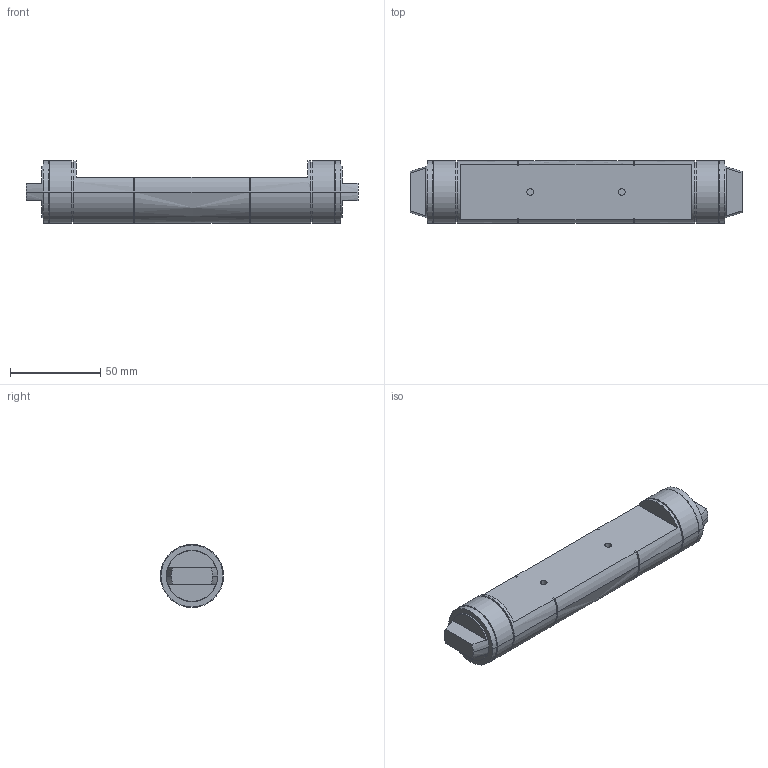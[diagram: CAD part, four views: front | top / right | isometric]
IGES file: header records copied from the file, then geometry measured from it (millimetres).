
Start section: 3D InterOp IGES (Version 21 0 3), Spatial Corp. Copyright (c) 1999-2007.
Global section: file name: CSR ANKLE CYLINDER - 20140610.igs; native system: Spatial Corp.; preprocessor: 3D InterOp GENERIC/IGES 3.0; author: Noname; organization: Noname; date: 20140621.122222; units: inch
Bounding box: 184.14 x 34.92 x 34.92 mm (x, y, z)
Surface area: 21899.7 mm2 (no closed solid volume)
Topology: 0 solids, 0 shells, 69 faces, 334 edges, 334 vertices
Faces by surface type: revolution 39, extrusion 30
